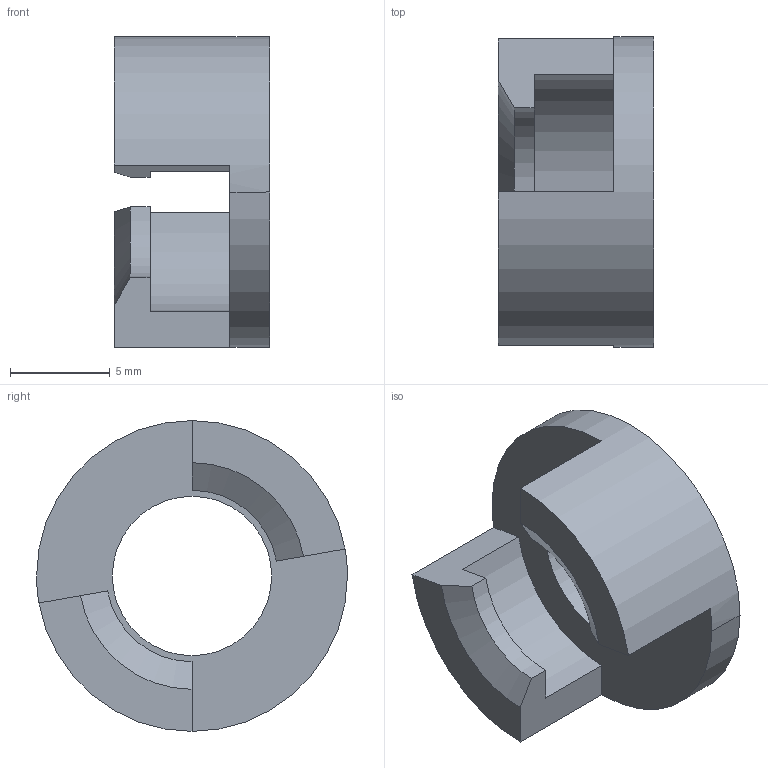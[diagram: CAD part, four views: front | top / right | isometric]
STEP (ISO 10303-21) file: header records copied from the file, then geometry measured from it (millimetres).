
FILE_DESCRIPTION(('CATIA V5 STEP Exchange'),'2;1');
FILE_NAME('C:\Users\Administrator\Desktop\YJ-消音器后盖2孔.stp','2021-12-16T08:47:58+00:00',('none'),('none'),'CATIA Version 5 Release 20 GA (IN-10)','CATIA V5 STEP AP214','none');
FILE_SCHEMA(('AUTOMOTIVE_DESIGN { 1 0 10303 214 1 1 1 1 }'));
Length unit declared in the file: millimetre
Products named in the file (1): Part19
Bounding box: 7.8 x 15.6 x 15.6 mm (x, y, z)
Volume: 519.5 mm3; surface area: 739.1 mm2
Topology: 1 solids, 1 shells, 20 faces, 54 edges, 36 vertices
Faces by surface type: plane 10, cylinder 8, cone 2
Entity records: 614 total; most frequent: ORIENTED_EDGE 108, CARTESIAN_POINT 105, DIRECTION 82, EDGE_CURVE 54, AXIS2_PLACEMENT_3D 37, VERTEX_POINT 36, VECTOR 32, LINE 32
